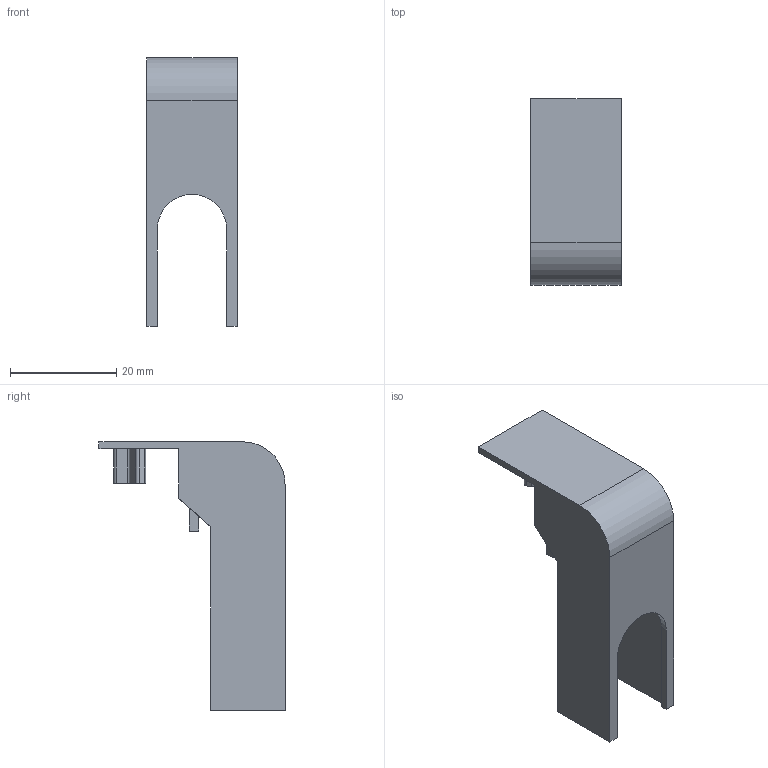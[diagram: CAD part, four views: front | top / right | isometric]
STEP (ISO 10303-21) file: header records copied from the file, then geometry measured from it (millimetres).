
FILE_DESCRIPTION (( 'STEP AP203' ), '1' );
FILE_NAME ('Êðûøêà êëåììíàÿ äëÿ ÷åòâåðòîãî ïîëþñà OptiSwitch DI-80-125 (äëÿ OptiSwitch DI-80-125Ñ-4_íèæíÿÿ, ñïðàâà).STEP', '2023-03-26T21:04:51', ( 'Ïîëüçîâàòåëü' ), ( '' ), 'SwSTEP 2.0', 'SolidWorks 2018', '' );
FILE_SCHEMA (( 'CONFIG_CONTROL_DESIGN' ));
Length unit declared in the file: millimetre
Products named in the file (2): Êðûøêà êëåììíàÿ äëÿ ÷åòâåðòîãî ïîëþñà OptiSwitch DI-80-125; Êðûøêà êëåììíàÿ äëÿ ÷åòâåðòîãî ïîëþñà OptiSwitch DI-80-125 (äëÿ OptiSwitch DI-80-125Ñ-4_íèæíÿÿ, ñïðàâà)
Assembly tree (1 placements, depth 2):
  Êðûøêà êëåììíàÿ äëÿ ÷åòâåðòîãî ïîëþñà OptiSwitch DI-80-125 (äëÿ OptiSwitch DI-80-125Ñ-4_íèæíÿÿ, ñïðàâà)
    Êðûøêà êëåììíàÿ äëÿ ÷åòâåðòîãî ïîëþñà OptiSwitch DI-80-125
Bounding box: 17 x 35 x 50.5 mm (x, y, z)
Volume: 3240.9 mm3; surface area: 5451.5 mm2
Topology: 1 solids, 1 shells, 53 faces, 146 edges, 96 vertices
Faces by surface type: plane 41, cylinder 12
Entity records: 1868 total; most frequent: CARTESIAN_POINT 299, ORIENTED_EDGE 292, DIRECTION 284, EDGE_CURVE 146, VECTOR 122, LINE 122, VERTEX_POINT 96, AXIS2_PLACEMENT_3D 81
